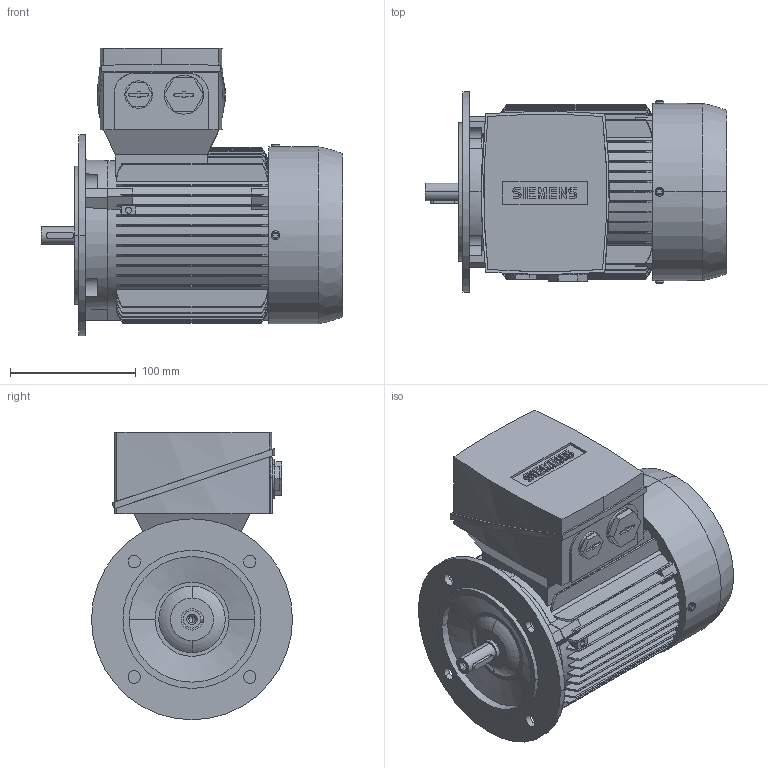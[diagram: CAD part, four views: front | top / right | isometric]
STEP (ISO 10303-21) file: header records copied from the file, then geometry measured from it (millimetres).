
FILE_DESCRIPTION(('STEP AP214'),'1');
FILE_NAME('cctmp_716BF997-5A88-4E87-8406-1DFAF4D50223_2021_11_4_13_27_2_548..stp','2021-11-04T12:27:03',('SIEMENS A&D'),('CADClick - www.CADClick.com'),'Spatial InterOp 3D',' ','unknown authorization');
FILE_SCHEMA(('AUTOMOTIVE_DESIGN'));
Length unit declared in the file: millimetre
Products named in the file (1): 2021_11_04__13-27-02-532
Bounding box: 240 x 160 x 229 mm (x, y, z)
Volume: 3639814.4 mm3; surface area: 292050.8 mm2
Topology: 1 solids, 1 shells, 695 faces, 1876 edges, 1233 vertices
Faces by surface type: plane 412, cylinder 173, torus 94, cone 16
Entity records: 32143 total; most frequent: CARTESIAN_POINT 9427, ORIENTED_EDGE 3724, DIRECTION 3328, EDGE_CURVE 1862, VERTEX_POINT 1233, AXIS2_PLACEMENT_3D 1133, LINE 1062, VECTOR 1062
